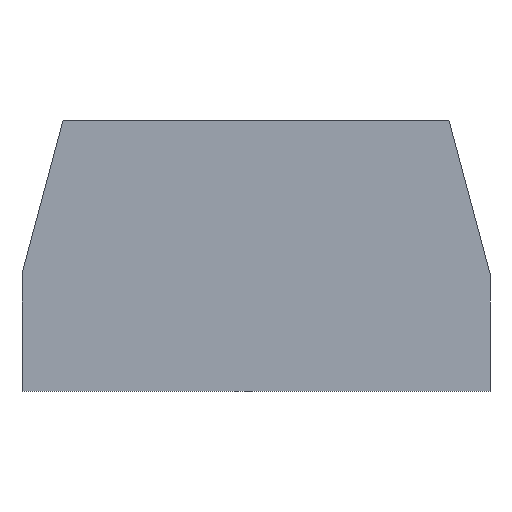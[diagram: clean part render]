
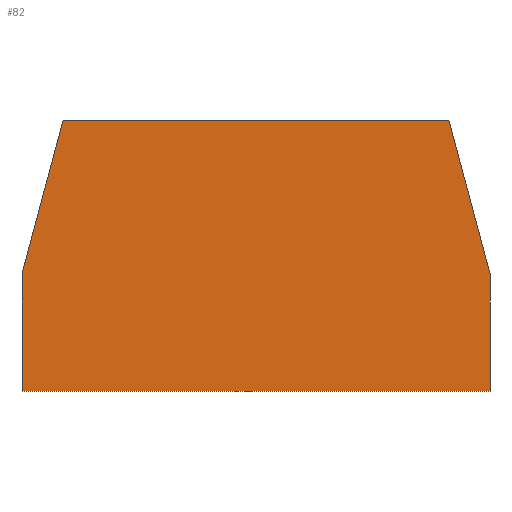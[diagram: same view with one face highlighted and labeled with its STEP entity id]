
A CAD part, left-side view. The second image highlights one B-rep face of the part: STEP entity #82.
In plain terms, the highlighted planar face has unit normal (-1, 0, 0).
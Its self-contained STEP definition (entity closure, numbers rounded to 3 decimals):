
#82=ADVANCED_FACE('',(#98),#99,.F.);
#98=FACE_OUTER_BOUND('',#114,.T.);
#99=PLANE('',#115);
#114=EDGE_LOOP('',(#167,#168,#169,#170,#171,#172));
#115=AXIS2_PLACEMENT_3D('',#173,#174,#175);
#167=ORIENTED_EDGE('',*,*,#188,.F.);
#168=ORIENTED_EDGE('',*,*,#182,.F.);
#169=ORIENTED_EDGE('',*,*,#176,.F.);
#170=ORIENTED_EDGE('',*,*,#185,.F.);
#171=ORIENTED_EDGE('',*,*,#191,.F.);
#172=ORIENTED_EDGE('',*,*,#192,.F.);
#173=CARTESIAN_POINT('',(0.0,-296.508,-386.128));
#174=DIRECTION('',(1.0,0.0,0.0));
#175=DIRECTION('',(0.0,1.0,0.0));
#176=EDGE_CURVE('',#194,#195,#196,.T.);
#182=EDGE_CURVE('',#195,#203,#206,.T.);
#185=EDGE_CURVE('',#209,#194,#211,.T.);
#188=EDGE_CURVE('',#203,#213,#216,.T.);
#191=EDGE_CURVE('',#219,#209,#221,.T.);
#192=EDGE_CURVE('',#213,#219,#222,.T.);
#194=VERTEX_POINT('',#224);
#195=VERTEX_POINT('',#225);
#196=LINE('',#226,#227);
#203=VERTEX_POINT('',#237);
#206=LINE('',#242,#243);
#209=VERTEX_POINT('',#247);
#211=LINE('',#250,#251);
#213=VERTEX_POINT('',#253);
#216=LINE('',#258,#259);
#219=VERTEX_POINT('',#263);
#221=LINE('',#266,#267);
#222=LINE('',#268,#269);
#224=CARTESIAN_POINT('',(0.0,71.8,0.0));
#225=CARTESIAN_POINT('',(0.0,71.8,18.0));
#226=CARTESIAN_POINT('',(0.0,71.8,-386.128));
#227=VECTOR('',#272,1.0);
#237=CARTESIAN_POINT('',(0.0,65.503,41.5));
#242=CARTESIAN_POINT('',(0.0,180.086,-386.128));
#243=VECTOR('',#278,1.0);
#247=CARTESIAN_POINT('',(0.0,0.0,0.0));
#250=CARTESIAN_POINT('',(0.0,-296.508,0.0));
#251=VECTOR('',#281,1.0);
#253=CARTESIAN_POINT('',(0.0,6.297,41.5));
#258=CARTESIAN_POINT('',(0.0,-296.508,41.5));
#259=VECTOR('',#284,1.0);
#263=CARTESIAN_POINT('',(0.0,0.0,18.0));
#266=CARTESIAN_POINT('',(0.0,0.0,-386.128));
#267=VECTOR('',#287,1.0);
#268=CARTESIAN_POINT('',(0.0,-108.286,-386.128));
#269=VECTOR('',#288,1.0);
#272=DIRECTION('',(0.0,0.0,1.0));
#278=DIRECTION('',(0.0,-0.259,0.966));
#281=DIRECTION('',(0.0,1.0,0.0));
#284=DIRECTION('',(0.0,-1.0,0.0));
#287=DIRECTION('',(0.0,0.0,-1.0));
#288=DIRECTION('',(0.0,-0.259,-0.966));
